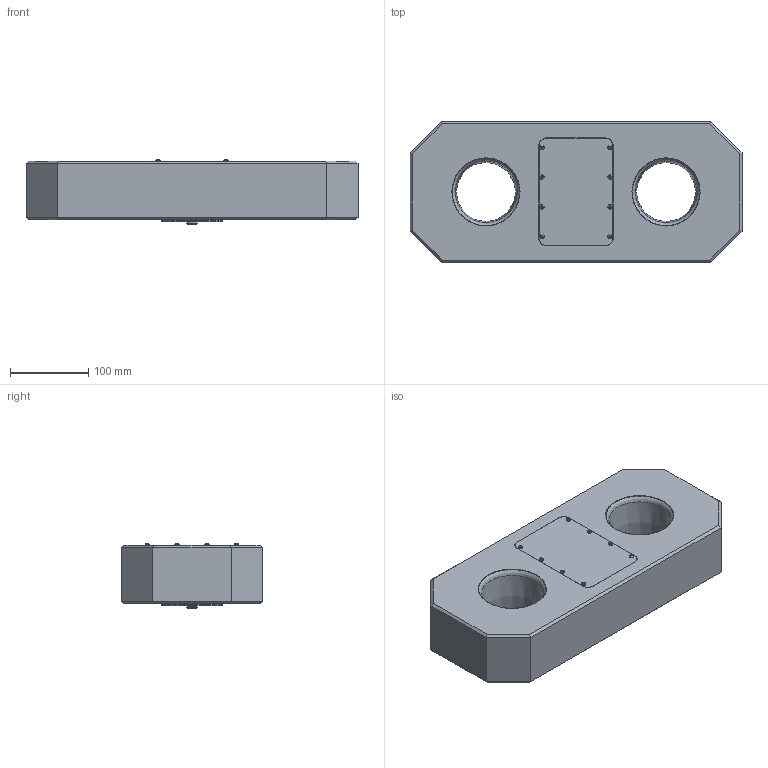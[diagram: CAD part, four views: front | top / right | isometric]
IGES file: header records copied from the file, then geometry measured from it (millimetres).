
Global section: file name: RLP55T; native system: Autodesk Inventor 2016; preprocessor: unknown; author: rdivakaran; date: 20180811.130230; units: millimetre
Bounding box: 424 x 180 x 82.32 mm (x, y, z)
Volume: 4439257.7 mm3; surface area: 493439.7 mm2
Topology: 71 solids, 71 shells, 4017 faces, 10346 edges, 6746 vertices
Faces by surface type: bspline 4017
